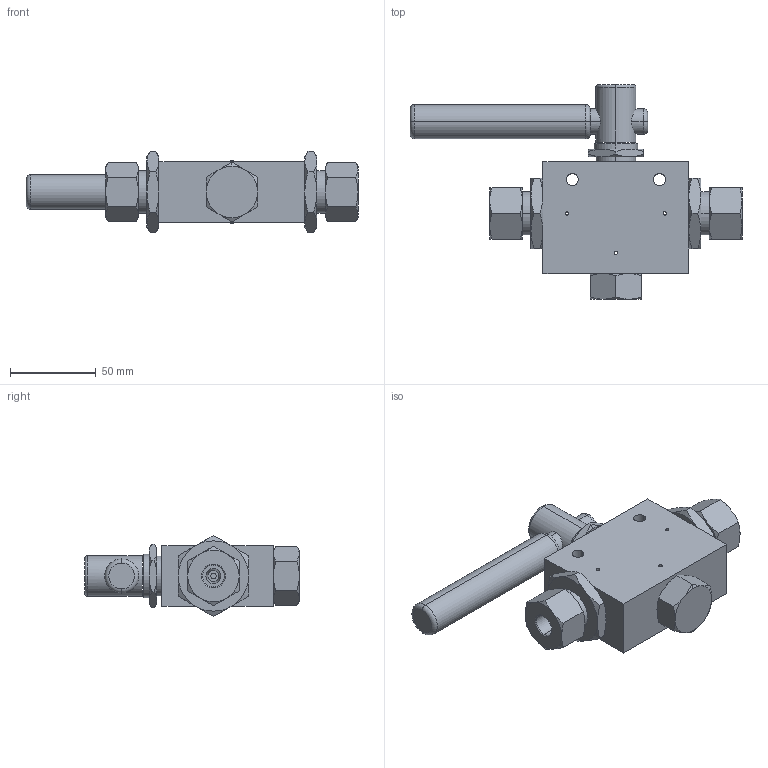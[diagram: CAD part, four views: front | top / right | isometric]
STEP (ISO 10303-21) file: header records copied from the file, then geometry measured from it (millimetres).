
FILE_DESCRIPTION (( 'STEP AP203' ), '1' );
FILE_NAME ('BV1505S04-2-90.STEP', '2022-04-07T09:59:56', ( '' ), ( '' ), 'SwSTEP 2.0', 'SolidWorks 2020', '' );
FILE_SCHEMA (( 'CONFIG_CONTROL_DESIGN' ));
Length unit declared in the file: millimetre
Products named in the file (1): BV1505S04-2-90
Bounding box: 193.5 x 125 x 47.34 mm (x, y, z)
Volume: 308490.6 mm3; surface area: 47103.6 mm2
Topology: 1 solids, 1 shells, 206 faces, 454 edges, 268 vertices
Faces by surface type: cone 86, plane 68, cylinder 44, torus 8
Entity records: 6551 total; most frequent: CARTESIAN_POINT 2085, ORIENTED_EDGE 908, DIRECTION 904, EDGE_CURVE 454, AXIS2_PLACEMENT_3D 395, VERTEX_POINT 268, EDGE_LOOP 238, ADVANCED_FACE 206
